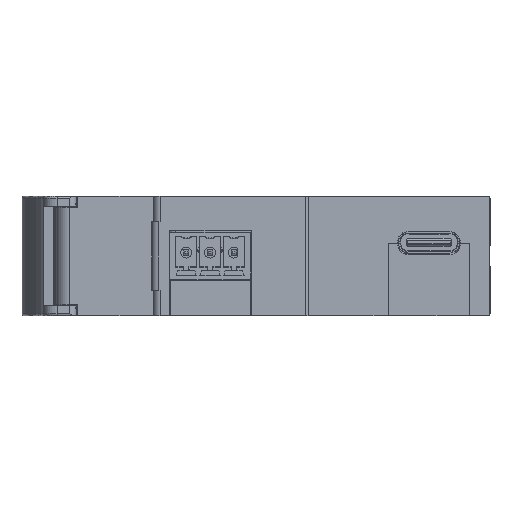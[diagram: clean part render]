
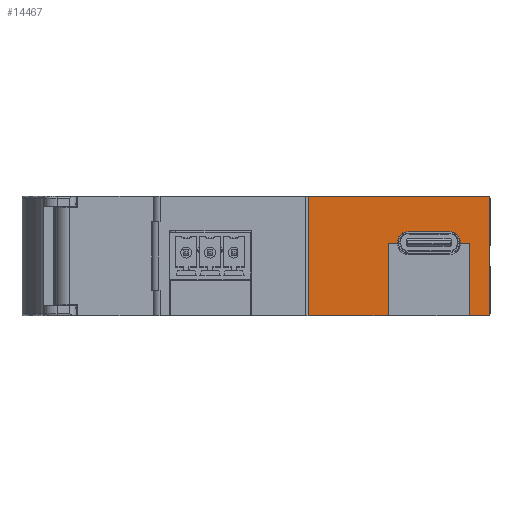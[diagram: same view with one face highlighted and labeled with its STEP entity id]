
A CAD part, left-side view. The second image highlights one B-rep face of the part: STEP entity #14467.
In plain terms, the highlighted planar face has unit normal (-1, 0, 0).
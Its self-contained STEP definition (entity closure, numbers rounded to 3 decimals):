
#254 = VERTEX_POINT ( 'NONE', #84000 ) ;
#431 = LINE ( 'NONE', #102727, #122943 ) ;
#3348 = DIRECTION ( 'NONE',  ( 0., 0., -1. ) ) ;
#4198 = VERTEX_POINT ( 'NONE', #109622 ) ;
#4931 = VERTEX_POINT ( 'NONE', #61213 ) ;
#5183 = CARTESIAN_POINT ( 'NONE',  ( -50.734, -33.227, 134.555 ) ) ;
#6387 = EDGE_CURVE ( 'NONE', #71554, #117053, #90268, .T. ) ;
#6679 = DIRECTION ( 'NONE',  ( 0., 1., 0. ) ) ;
#7738 = CARTESIAN_POINT ( 'NONE',  ( -50.734, -30.557, 134.855 ) ) ;
#11436 = EDGE_LOOP ( 'NONE', ( #54934, #12841, #84828, #48696, #70990, #76364, #95655, #108782, #69647, #96206, #52808, #127111, #34510, #136194, #71292, #59847 ) ) ;
#12440 = VECTOR ( 'NONE', #128033, 1000. ) ;
#12841 = ORIENTED_EDGE ( 'NONE', *, *, #122699, .F. ) ;
#14467 = ADVANCED_FACE ( 'NONE', ( #82934 ), #14850, .F. ) ;
#14613 = DIRECTION ( 'NONE',  ( 0., 0., -1. ) ) ;
#14734 = DIRECTION ( 'NONE',  ( 0., -1., 0. ) ) ;
#14850 = PLANE ( 'NONE',  #71487 ) ;
#15818 = CARTESIAN_POINT ( 'NONE',  ( -50.734, -6.827, 117.255 ) ) ;
#17651 = LINE ( 'NONE', #116491, #12440 ) ;
#17811 = DIRECTION ( 'NONE',  ( 0., 0., -1. ) ) ;
#18132 = CARTESIAN_POINT ( 'NONE',  ( -50.734, -29.177, 128.055 ) ) ;
#19193 = CIRCLE ( 'NONE', #76046, 0.3 ) ;
#22546 = CARTESIAN_POINT ( 'NONE',  ( -50.734, -33.227, 117.255 ) ) ;
#23839 = CARTESIAN_POINT ( 'NONE',  ( -50.734, -30.557, 127.935 ) ) ;
#24048 = VECTOR ( 'NONE', #63327, 1000. ) ;
#24376 = DIRECTION ( 'NONE',  ( -1., 0., 0. ) ) ;
#26342 = LINE ( 'NONE', #18132, #57402 ) ;
#27448 = EDGE_CURVE ( 'NONE', #84474, #81013, #431, .T. ) ;
#28567 = AXIS2_PLACEMENT_3D ( 'NONE', #5183, #115039, #81677 ) ;
#30685 = CARTESIAN_POINT ( 'NONE',  ( -50.734, -29.177, 127.935 ) ) ;
#30729 = VECTOR ( 'NONE', #141366, 1000. ) ;
#31221 = EDGE_CURVE ( 'NONE', #42518, #47314, #51279, .T. ) ;
#31641 = LINE ( 'NONE', #104177, #78090 ) ;
#33111 = EDGE_CURVE ( 'NONE', #117053, #93060, #19193, .T. ) ;
#34510 = ORIENTED_EDGE ( 'NONE', *, *, #69706, .T. ) ;
#36492 = DIRECTION ( 'NONE',  ( 0., 0., -1. ) ) ;
#37175 = EDGE_CURVE ( 'NONE', #106300, #42464, #26342, .T. ) ;
#38069 = VERTEX_POINT ( 'NONE', #23839 ) ;
#38470 = DIRECTION ( 'NONE',  ( 0., -1., 0. ) ) ;
#39766 = CARTESIAN_POINT ( 'NONE',  ( -50.734, -33.527, 117.555 ) ) ;
#40824 = VECTOR ( 'NONE', #6679, 1000. ) ;
#42464 = VERTEX_POINT ( 'NONE', #30685 ) ;
#42518 = VERTEX_POINT ( 'NONE', #132714 ) ;
#47314 = VERTEX_POINT ( 'NONE', #113774 ) ;
#47684 = CARTESIAN_POINT ( 'NONE',  ( -50.734, -6.827, 117.255 ) ) ;
#47843 = CARTESIAN_POINT ( 'NONE',  ( -50.734, -18.557, 127.935 ) ) ;
#48696 = ORIENTED_EDGE ( 'NONE', *, *, #129337, .T. ) ;
#51279 = CIRCLE ( 'NONE', #28567, 0.3 ) ;
#52808 = ORIENTED_EDGE ( 'NONE', *, *, #37175, .T. ) ;
#53386 = LINE ( 'NONE', #86373, #24048 ) ;
#54090 = DIRECTION ( 'NONE',  ( 0., 0., 1. ) ) ;
#54934 = ORIENTED_EDGE ( 'NONE', *, *, #31221, .T. ) ;
#55831 = EDGE_CURVE ( 'NONE', #114127, #4198, #53386, .T. ) ;
#56646 = CARTESIAN_POINT ( 'NONE',  ( -50.734, -33.227, 117.555 ) ) ;
#56891 = CARTESIAN_POINT ( 'NONE',  ( -50.734, -29.177, 128.055 ) ) ;
#57402 = VECTOR ( 'NONE', #36492, 1000. ) ;
#59347 = VECTOR ( 'NONE', #38470, 1000. ) ;
#59462 = VERTEX_POINT ( 'NONE', #129634 ) ;
#59847 = ORIENTED_EDGE ( 'NONE', *, *, #133623, .F. ) ;
#60160 = VECTOR ( 'NONE', #14613, 1000. ) ;
#61213 = CARTESIAN_POINT ( 'NONE',  ( -50.734, -27.577, 129.655 ) ) ;
#63327 = DIRECTION ( 'NONE',  ( 0., -1., 0. ) ) ;
#67280 = CARTESIAN_POINT ( 'NONE',  ( -50.734, -21.537, 128.055 ) ) ;
#67337 = VECTOR ( 'NONE', #98209, 1000. ) ;
#67715 = DIRECTION ( 'NONE',  ( 0., 0., -1. ) ) ;
#67733 = DIRECTION ( 'NONE',  ( 0., 0., 1. ) ) ;
#67806 = CIRCLE ( 'NONE', #97046, 1.6 ) ;
#69270 = DIRECTION ( 'NONE',  ( 1., 0., 0. ) ) ;
#69647 = ORIENTED_EDGE ( 'NONE', *, *, #100513, .F. ) ;
#69706 = EDGE_CURVE ( 'NONE', #38069, #71554, #81663, .T. ) ;
#70459 = DIRECTION ( 'NONE',  ( 0., 0., 1. ) ) ;
#70990 = ORIENTED_EDGE ( 'NONE', *, *, #90862, .T. ) ;
#71292 = ORIENTED_EDGE ( 'NONE', *, *, #33111, .T. ) ;
#71487 = AXIS2_PLACEMENT_3D ( 'NONE', #80306, #69270, #3348 ) ;
#71554 = VERTEX_POINT ( 'NONE', #99179 ) ;
#73973 = CARTESIAN_POINT ( 'NONE',  ( -50.734, -6.827, 134.855 ) ) ;
#76046 = AXIS2_PLACEMENT_3D ( 'NONE', #56646, #24376, #67715 ) ;
#76364 = ORIENTED_EDGE ( 'NONE', *, *, #55831, .T. ) ;
#77714 = VECTOR ( 'NONE', #14734, 1000. ) ;
#78090 = VECTOR ( 'NONE', #70459, 1000. ) ;
#78578 = CARTESIAN_POINT ( 'NONE',  ( -50.734, -19.937, 128.055 ) ) ;
#80306 = CARTESIAN_POINT ( 'NONE',  ( -50.734, -6.827, 134.855 ) ) ;
#81013 = VERTEX_POINT ( 'NONE', #15818 ) ;
#81663 = LINE ( 'NONE', #7738, #100654 ) ;
#81677 = DIRECTION ( 'NONE',  ( 0., 0., -1. ) ) ;
#82934 = FACE_OUTER_BOUND ( 'NONE', #11436, .T. ) ;
#84000 = CARTESIAN_POINT ( 'NONE',  ( -50.734, -21.537, 129.655 ) ) ;
#84144 = CARTESIAN_POINT ( 'NONE',  ( -50.734, -6.827, 129.655 ) ) ;
#84474 = VERTEX_POINT ( 'NONE', #73973 ) ;
#84828 = ORIENTED_EDGE ( 'NONE', *, *, #27448, .T. ) ;
#86373 = CARTESIAN_POINT ( 'NONE',  ( -50.734, -18.557, 127.935 ) ) ;
#86760 = DIRECTION ( 'NONE',  ( 1., 0., 0. ) ) ;
#86825 = EDGE_CURVE ( 'NONE', #138909, #254, #67806, .T. ) ;
#88167 = CARTESIAN_POINT ( 'NONE',  ( -50.734, -6.827, 117.255 ) ) ;
#90268 = LINE ( 'NONE', #47684, #59347 ) ;
#90862 = EDGE_CURVE ( 'NONE', #59462, #114127, #17651, .T. ) ;
#92132 = CARTESIAN_POINT ( 'NONE',  ( -50.734, -33.527, 134.855 ) ) ;
#93060 = VERTEX_POINT ( 'NONE', #39766 ) ;
#93235 = LINE ( 'NONE', #103843, #77714 ) ;
#95655 = ORIENTED_EDGE ( 'NONE', *, *, #102720, .T. ) ;
#95959 = LINE ( 'NONE', #84144, #40824 ) ;
#96206 = ORIENTED_EDGE ( 'NONE', *, *, #98531, .T. ) ;
#97046 = AXIS2_PLACEMENT_3D ( 'NONE', #67280, #133297, #67733 ) ;
#98209 = DIRECTION ( 'NONE',  ( 0., -1., 0. ) ) ;
#98425 = LINE ( 'NONE', #143145, #67337 ) ;
#98531 = EDGE_CURVE ( 'NONE', #4931, #106300, #134986, .T. ) ;
#99179 = CARTESIAN_POINT ( 'NONE',  ( -50.734, -30.557, 117.255 ) ) ;
#100513 = EDGE_CURVE ( 'NONE', #4931, #254, #95959, .T. ) ;
#100654 = VECTOR ( 'NONE', #17811, 1000. ) ;
#102720 = EDGE_CURVE ( 'NONE', #4198, #138909, #31641, .T. ) ;
#102727 = CARTESIAN_POINT ( 'NONE',  ( -50.734, -6.827, 134.855 ) ) ;
#103585 = EDGE_CURVE ( 'NONE', #42464, #38069, #93235, .T. ) ;
#103843 = CARTESIAN_POINT ( 'NONE',  ( -50.734, -29.177, 127.935 ) ) ;
#104177 = CARTESIAN_POINT ( 'NONE',  ( -50.734, -19.937, 128.055 ) ) ;
#105577 = AXIS2_PLACEMENT_3D ( 'NONE', #142330, #86760, #54090 ) ;
#106300 = VERTEX_POINT ( 'NONE', #56891 ) ;
#108782 = ORIENTED_EDGE ( 'NONE', *, *, #86825, .T. ) ;
#109622 = CARTESIAN_POINT ( 'NONE',  ( -50.734, -19.937, 127.935 ) ) ;
#113774 = CARTESIAN_POINT ( 'NONE',  ( -50.734, -33.227, 134.855 ) ) ;
#114127 = VERTEX_POINT ( 'NONE', #47843 ) ;
#115039 = DIRECTION ( 'NONE',  ( -1., 0., 0. ) ) ;
#116491 = CARTESIAN_POINT ( 'NONE',  ( -50.734, -18.557, 134.855 ) ) ;
#117053 = VERTEX_POINT ( 'NONE', #22546 ) ;
#120440 = LINE ( 'NONE', #88167, #30729 ) ;
#122699 = EDGE_CURVE ( 'NONE', #84474, #47314, #98425, .T. ) ;
#122943 = VECTOR ( 'NONE', #124969, 1000. ) ;
#124969 = DIRECTION ( 'NONE',  ( 0., 0., -1. ) ) ;
#127111 = ORIENTED_EDGE ( 'NONE', *, *, #103585, .T. ) ;
#128033 = DIRECTION ( 'NONE',  ( 0., 0., 1. ) ) ;
#129337 = EDGE_CURVE ( 'NONE', #81013, #59462, #120440, .T. ) ;
#129634 = CARTESIAN_POINT ( 'NONE',  ( -50.734, -18.557, 117.255 ) ) ;
#132714 = CARTESIAN_POINT ( 'NONE',  ( -50.734, -33.527, 134.555 ) ) ;
#133297 = DIRECTION ( 'NONE',  ( 1., 0., 0. ) ) ;
#133623 = EDGE_CURVE ( 'NONE', #42518, #93060, #137882, .T. ) ;
#134986 = CIRCLE ( 'NONE', #105577, 1.6 ) ;
#136194 = ORIENTED_EDGE ( 'NONE', *, *, #6387, .T. ) ;
#137882 = LINE ( 'NONE', #92132, #60160 ) ;
#138909 = VERTEX_POINT ( 'NONE', #78578 ) ;
#141366 = DIRECTION ( 'NONE',  ( 0., -1., 0. ) ) ;
#142330 = CARTESIAN_POINT ( 'NONE',  ( -50.734, -27.577, 128.055 ) ) ;
#143145 = CARTESIAN_POINT ( 'NONE',  ( -50.734, -6.827, 134.855 ) ) ;
